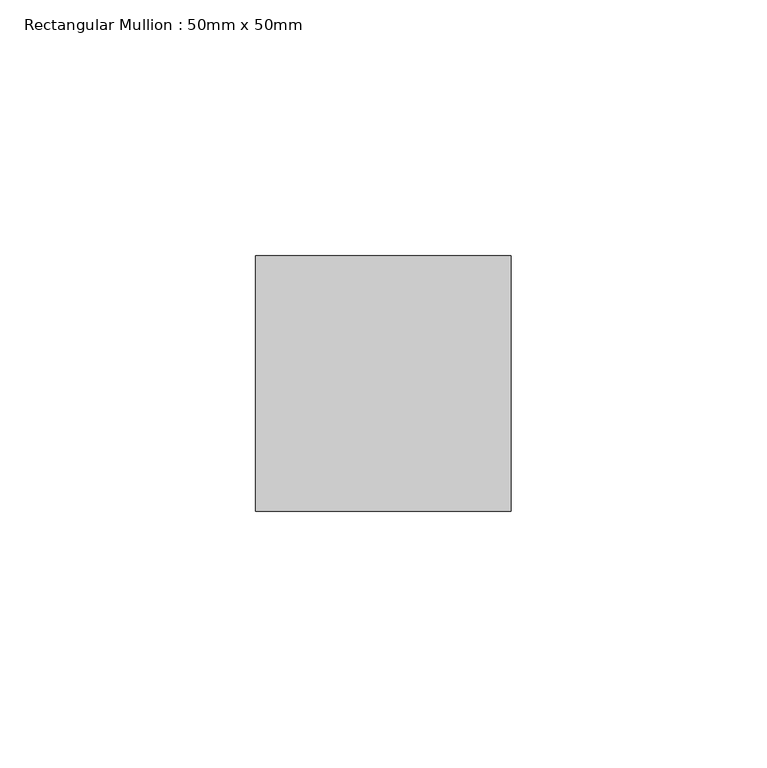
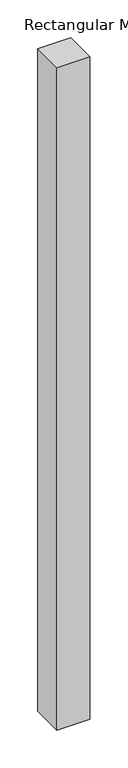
"""IFC4 building model written with IfcOpenShell, lengths in millimetres: member geometry, Rectangular Mullion : 50mm x 50mm."""

from ifc_helpers import new_model, si_unit, frame, origin, place, context, project, spatial, polyline, outline, extrude, source, transform, mapped, element, save


def rectangular_mullion_50mm_x_50mm_0130e2fc(model_context):
    return source(origin(), model_context, "Body", "SweptSolid", [
        extrude(outline(polyline([(0.0, 25.0), (0.0, -25.0), (-50.0, -25.0), (-50.0, 25.0), (0.0, 25.0)])), frame((0.0, 0.0, -1065.0), z_axis=(0.0, 0.0, 1.0), x_axis=(1.0, 0.0, 0.0)), (0.0, 0.0, 1.0), 1065.0),
    ])


if __name__ == "__main__":
    model = new_model("IFC4")
    model_context = context("Model", 3, world=origin())
    ifc_project = project(units=[si_unit("LENGTHUNIT", "METRE", prefix="MILLI")], contexts=[model_context])
    site = spatial("IfcSite", under=ifc_project)
    building = spatial("IfcBuilding", under=site)
    placement = place(None, origin())
    rectangular_mullion_50mm_x_50mm_shape = rectangular_mullion_50mm_x_50mm_0130e2fc(model_context)
    element("IfcMember", 1, ObjectType="Rectangular Mullion : 50mm x 50mm", at=placement, inside=building, context=model_context, shape_type="MappedRepresentation", body=[
        mapped(rectangular_mullion_50mm_x_50mm_shape, transform((0.0, 0.0, 0.0), x_axis=(1.0, 0.0, 0.0), y_axis=(0.0, 1.0, 0.0), z_axis=(0.0, 0.0, 1.0))),
    ])
    save(model, "model.ifc")
